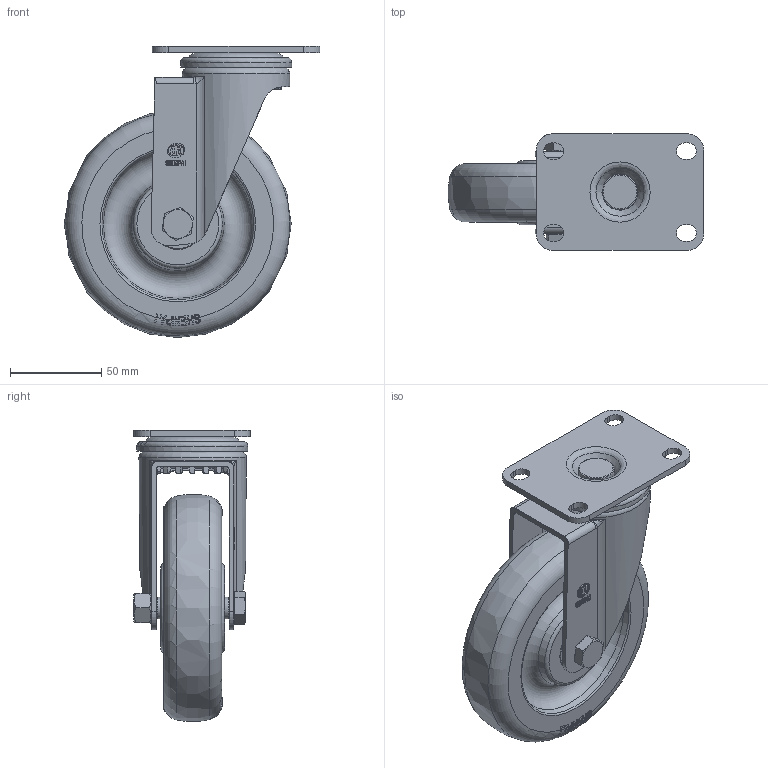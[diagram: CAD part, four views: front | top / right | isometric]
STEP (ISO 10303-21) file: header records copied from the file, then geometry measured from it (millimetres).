
FILE_DESCRIPTION(/* description */ (''),/* implementation_level */ '2;1');
FILE_NAME(/* name */ '20AC3_5_F.stp',/* time_stamp */ '2022-10-06T15:02:32+08:00',/* author */ (''),/* organization */ (''),/* preprocessor_version */ 'ST-DEVELOPER v14',/* originating_system */ 'SIEMENS PLM Software NX 8.0',/* authorisation */ '');
FILE_SCHEMA (('AUTOMOTIVE_DESIGN { 1 0 10303 214 3 1 1 1 }'));
Length unit declared in the file: millimetre
Products named in the file (1): 20AC3_5_F
Bounding box: 140.38 x 64.25 x 159.88 mm (x, y, z)
Volume: 393299.5 mm3; surface area: 99856.2 mm2
Topology: 1 solids, 2 shells, 847 faces, 2418 edges, 1607 vertices
Faces by surface type: plane 469, cylinder 167, torus 85, cone 44, sphere 38, extrusion 34, bspline 10
Full cylindrical faces by diameter (mm): 10 x2, 10.3 x2, 11.8 x3, 12 x2, 12.2 x1, 12.496 x1, 16 x1, 16.8 x1, 24 x1, 28 x2, 30.122 x1, 45.996 x1, 54 x1, 56 x1, 59 x1, 61 x1
Entity records: 32118 total; most frequent: CARTESIAN_POINT 12505, ORIENTED_EDGE 4366, DIRECTION 3453, EDGE_CURVE 2183, VERTEX_POINT 1491, AXIS2_PLACEMENT_3D 1270, EDGE_LOOP 1006, VECTOR 913
